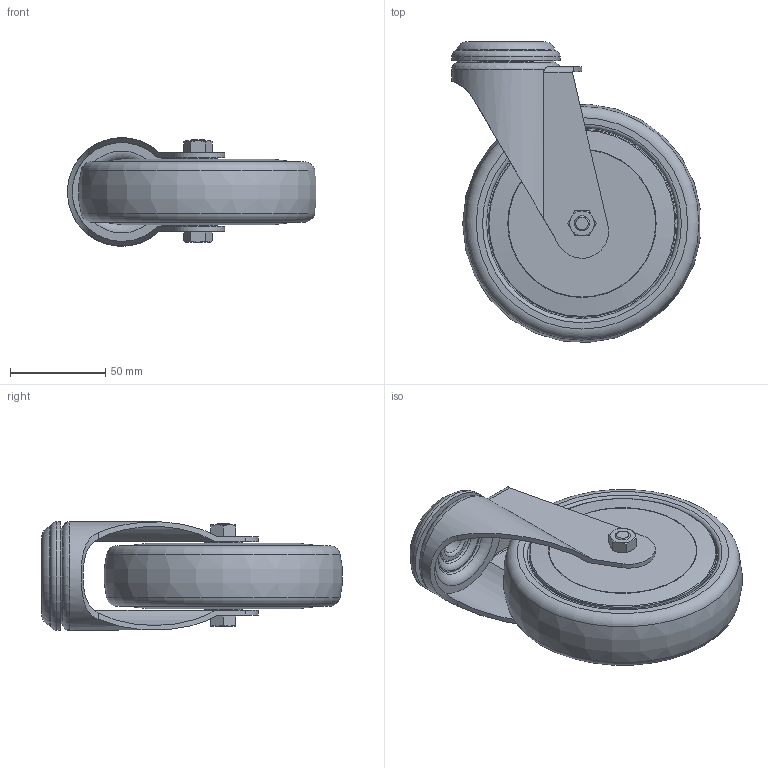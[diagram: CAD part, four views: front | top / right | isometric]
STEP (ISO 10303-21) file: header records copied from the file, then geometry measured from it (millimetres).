
FILE_DESCRIPTION(/* description */ ('STEP AP214'),/* implementation_level */ '2;1');
FILE_NAME(/* name */ '098S125TN',/* time_stamp */ '2025-03-17T13:44:53+01:00',/* author */ ('License CC BY-ND 4.0'),/* organization */ ('CADENAS'),/* preprocessor_version */ 'ST-DEVELOPER v19.3',/* originating_system */ 'PARTsolutions',/* authorisation */ ' ');
FILE_SCHEMA (('AUTOMOTIVE_DESIGN {1 0 10303 214 3 1 1}'));
Length unit declared in the file: millimetre
Products named in the file (5): 098S125TN; 098S125TN-body; 098S125TN-wheel; 098S125TN-nut; 098S125TN-screw
Assembly tree (4 placements, depth 2):
  098S125TN
    098S125TN-body
    098S125TN-wheel
    098S125TN-nut
    098S125TN-screw
Bounding box: 130.73 x 158.05 x 57 mm (x, y, z)
Volume: 452945.9 mm3; surface area: 67870.1 mm2
Topology: 4 solids, 4 shells, 150 faces, 338 edges, 209 vertices
Faces by surface type: plane 59, cone 38, torus 29, cylinder 24
Full cylindrical faces by diameter (mm): 8 x2, 8.5 x3, 13 x2, 20 x2, 20.45 x1, 57 x1, 98.64 x2
Entity records: 4155 total; most frequent: CARTESIAN_POINT 922, DIRECTION 648, ORIENTED_EDGE 578, EDGE_CURVE 289, AXIS2_PLACEMENT_3D 286, EDGE_LOOP 217, FACE_BOUND 217, VERTEX_POINT 204
